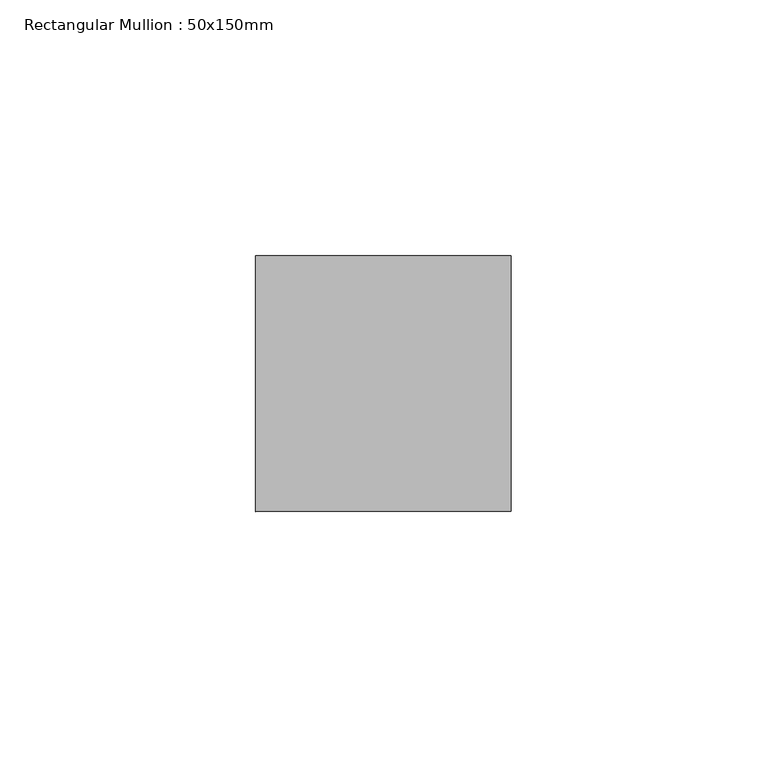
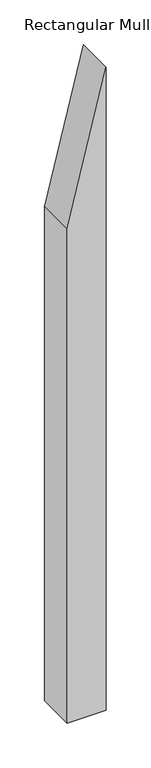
"""IFC4 building model written with IfcOpenShell, lengths in millimetres: member geometry, Rectangular Mullion : 50x150mm."""

from ifc_helpers import new_model, si_unit, frame, origin, place, context, project, spatial, polyline, outline, extrude, source, transform, mapped, element, save


def rectangular_mullion_50x150mm_a9fba038(model_context):
    return source(origin(), model_context, "Body", "SweptSolid", [
        extrude(outline(polyline([(0.0, 0.0), (-202.2822642, -50.0), (-873.0393929, -50.0), (-873.0393929, 0.0), (0.0, 0.0)])), frame((0.0, -25.0, 0.0), z_axis=(0.0, 1.0, 0.0), x_axis=(0.0, 0.0, 1.0)), (0.0, 0.0, 1.0), 50.0),
    ])


if __name__ == "__main__":
    model = new_model("IFC4")
    model_context = context("Model", 3, world=origin())
    ifc_project = project(units=[si_unit("LENGTHUNIT", "METRE", prefix="MILLI")], contexts=[model_context])
    site = spatial("IfcSite", under=ifc_project)
    building = spatial("IfcBuilding", under=site)
    placement = place(None, origin())
    rectangular_mullion_50x150mm_shape = rectangular_mullion_50x150mm_a9fba038(model_context)
    element("IfcMember", 1, ObjectType="Rectangular Mullion : 50x150mm", at=placement, inside=building, context=model_context, shape_type="MappedRepresentation", body=[
        mapped(rectangular_mullion_50x150mm_shape, transform((0.0, 0.0, 0.0), x_axis=(1.0, 0.0, 0.0), y_axis=(0.0, 1.0, 0.0), z_axis=(0.0, 0.0, 1.0))),
    ])
    save(model, "model.ifc")
